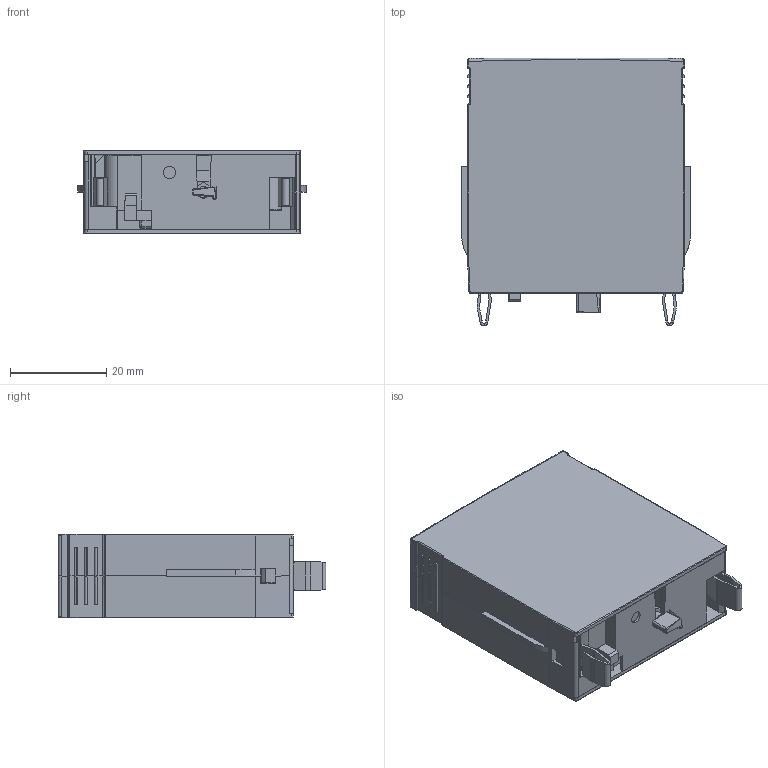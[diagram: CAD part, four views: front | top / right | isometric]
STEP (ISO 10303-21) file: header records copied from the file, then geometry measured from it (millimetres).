
FILE_DESCRIPTION( ( 'Unknown' ), '1' );
FILE_NAME( 'C:/Users/pdellaca/Desktop/7P20.stp', 'Unknown', ( 'Unknown' ), ( 'Unknown' ), 'PSStep 15.0.49', 'Unknown', ' ' );
FILE_SCHEMA( ( 'AUTOMOTIVE_DESIGN { 1 0 10303 214 1 1 1 1 }' ) );
Length unit declared in the file: millimetre
Products named in the file (9): top
Bounding box: 47.4 x 55.47 x 17.4 mm (x, y, z)
Surface area: 12686.6 mm2 (no closed solid volume)
Topology: 0 solids, 325 shells, 325 faces, 1671 edges, 1630 vertices
Faces by surface type: plane 182, cylinder 72, revolution 24, bspline 20, torus 13, extrusion 8, sphere 6
Full cylindrical faces by diameter (mm): 2.3 x1, 2.5 x1
Entity records: 21152 total; most frequent: CARTESIAN_POINT 6939, DIRECTION 2112, ORIENTED_EDGE 1629, EDGE_CURVE 1629, VERTEX_POINT 1629, VECTOR 1014, LINE 1006, AXIS2_PLACEMENT_3D 537
